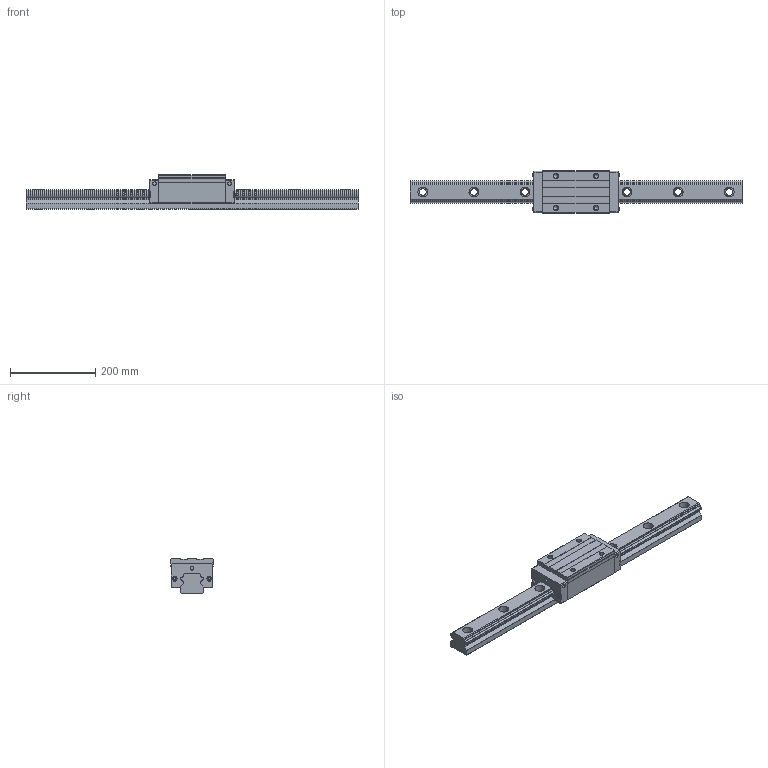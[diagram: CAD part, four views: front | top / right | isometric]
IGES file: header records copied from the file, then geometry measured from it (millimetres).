
Start section: START RECORD GO HERE.
Global section: file name: SBG55_SLL.igs; native system: IBM CATIA IGES - CATIA Version 5 Release 16 ; preprocessor: CATIA Version 5 Release 16 ; author: mycom; organization: RD03; date: 20070226.133758; units: millimetre
Bounding box: 780 x 100 x 80 mm (x, y, z)
Surface area: 279278.7 mm2 (no closed solid volume)
Topology: 0 solids, 0 shells, 273 faces, 1448 edges, 1436 vertices
Faces by surface type: revolution 157, plane 116
